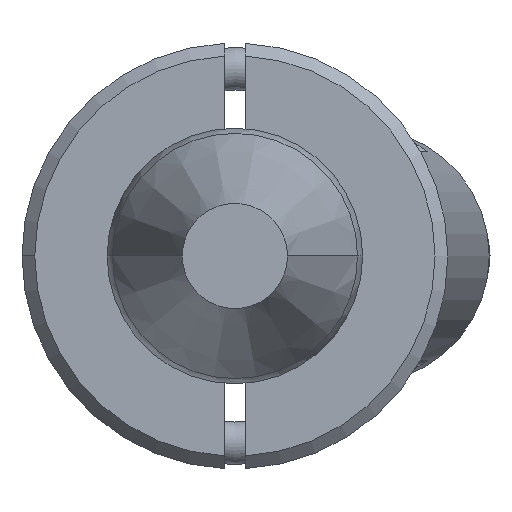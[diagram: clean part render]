
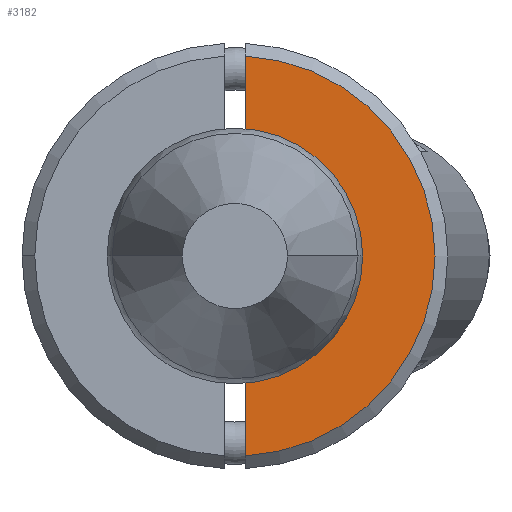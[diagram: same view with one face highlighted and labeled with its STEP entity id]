
A CAD part, front view. The second image highlights one B-rep face of the part: STEP entity #3182.
In plain terms, the highlighted planar face has unit normal (0, -1, 0).
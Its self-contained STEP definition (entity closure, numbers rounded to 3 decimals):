
#50 = ORIENTED_EDGE ( 'NONE', *, *, #2622, .T. ) ;
#88 = PLANE ( 'NONE',  #2906 ) ;
#105 = CARTESIAN_POINT ( 'NONE',  ( -5., -6., 0. ) ) ;
#139 = CARTESIAN_POINT ( 'NONE',  ( 0., -6., 0. ) ) ;
#493 = DIRECTION ( 'NONE',  ( 0., -1., 0. ) ) ;
#648 = ORIENTED_EDGE ( 'NONE', *, *, #2719, .F. ) ;
#711 = DIRECTION ( 'NONE',  ( 0., 0., -1. ) ) ;
#787 = VERTEX_POINT ( 'NONE', #832 ) ;
#832 = CARTESIAN_POINT ( 'NONE',  ( 4.693, -6., -0.25 ) ) ;
#911 = AXIS2_PLACEMENT_3D ( 'NONE', #139, #1585, #2736 ) ;
#980 = CARTESIAN_POINT ( 'NONE',  ( -5., -6., -0.25 ) ) ;
#1087 = EDGE_CURVE ( 'NONE', #2071, #787, #2885, .T. ) ;
#1124 = VERTEX_POINT ( 'NONE', #3417 ) ;
#1129 = DIRECTION ( 'NONE',  ( 0., 0., -1. ) ) ;
#1283 = AXIS2_PLACEMENT_3D ( 'NONE', #1398, #2220, #1684 ) ;
#1398 = CARTESIAN_POINT ( 'NONE',  ( 0., -6., 0. ) ) ;
#1585 = DIRECTION ( 'NONE',  ( 0., 1., 0. ) ) ;
#1591 = LINE ( 'NONE', #980, #2932 ) ;
#1598 = ORIENTED_EDGE ( 'NONE', *, *, #3699, .T. ) ;
#1610 = CARTESIAN_POINT ( 'NONE',  ( -4.693, -6., -0.25 ) ) ;
#1619 = EDGE_LOOP ( 'NONE', ( #648, #50, #3023, #1598, #2695 ) ) ;
#1684 = DIRECTION ( 'NONE',  ( 0., 0., -1. ) ) ;
#1690 = CIRCLE ( 'NONE', #1860, 4.7 ) ;
#1859 = VECTOR ( 'NONE', #3538, 1000. ) ;
#1860 = AXIS2_PLACEMENT_3D ( 'NONE', #2261, #493, #1129 ) ;
#1863 = DIRECTION ( 'NONE',  ( 0., -1., 0. ) ) ;
#1872 = CARTESIAN_POINT ( 'NONE',  ( 0., -6., -2.45 ) ) ;
#1885 = DIRECTION ( 'NONE',  ( 1., 0., 0. ) ) ;
#1886 = VERTEX_POINT ( 'NONE', #1872 ) ;
#2071 = VERTEX_POINT ( 'NONE', #3690 ) ;
#2220 = DIRECTION ( 'NONE',  ( 0., 1., 0. ) ) ;
#2261 = CARTESIAN_POINT ( 'NONE',  ( 0., -6., 0. ) ) ;
#2417 = FACE_OUTER_BOUND ( 'NONE', #1619, .T. ) ;
#2589 = CIRCLE ( 'NONE', #911, 2.45 ) ;
#2598 = CIRCLE ( 'NONE', #1283, 2.45 ) ;
#2622 = EDGE_CURVE ( 'NONE', #3665, #787, #1690, .T. ) ;
#2695 = ORIENTED_EDGE ( 'NONE', *, *, #3059, .T. ) ;
#2719 = EDGE_CURVE ( 'NONE', #3665, #1124, #1591, .T. ) ;
#2736 = DIRECTION ( 'NONE',  ( 0., 0., -1. ) ) ;
#2885 = LINE ( 'NONE', #3787, #1859 ) ;
#2906 = AXIS2_PLACEMENT_3D ( 'NONE', #105, #1863, #711 ) ;
#2932 = VECTOR ( 'NONE', #1885, 1000. ) ;
#3023 = ORIENTED_EDGE ( 'NONE', *, *, #1087, .F. ) ;
#3059 = EDGE_CURVE ( 'NONE', #1886, #1124, #2589, .T. ) ;
#3182 = ADVANCED_FACE ( 'NONE', ( #2417 ), #88, .T. ) ;
#3417 = CARTESIAN_POINT ( 'NONE',  ( -2.437, -6., -0.25 ) ) ;
#3538 = DIRECTION ( 'NONE',  ( 1., 0., 0. ) ) ;
#3665 = VERTEX_POINT ( 'NONE', #1610 ) ;
#3690 = CARTESIAN_POINT ( 'NONE',  ( 2.437, -6., -0.25 ) ) ;
#3699 = EDGE_CURVE ( 'NONE', #2071, #1886, #2598, .T. ) ;
#3787 = CARTESIAN_POINT ( 'NONE',  ( -5., -6., -0.25 ) ) ;
